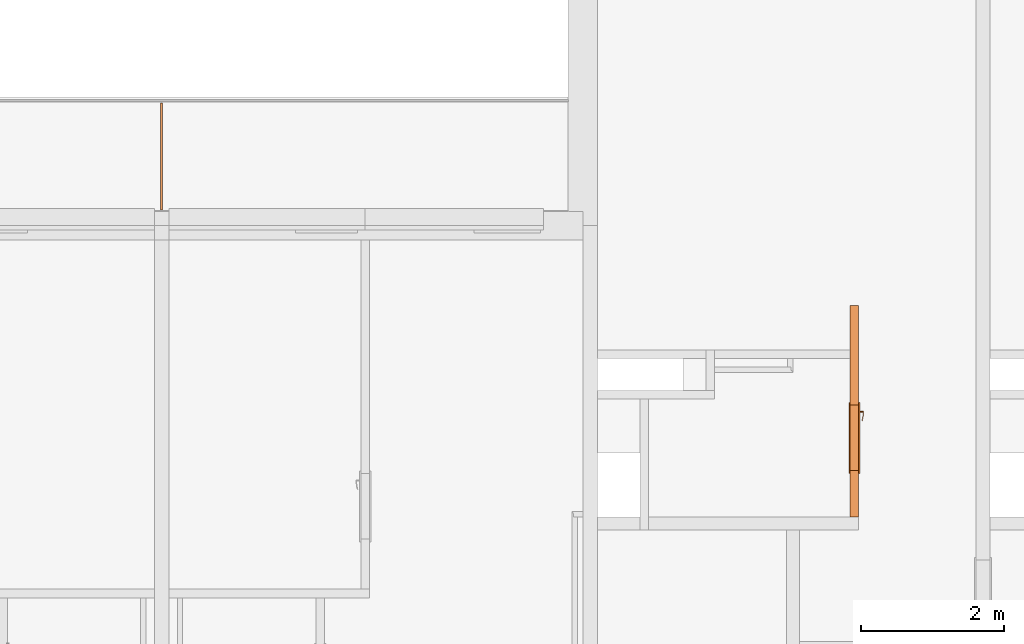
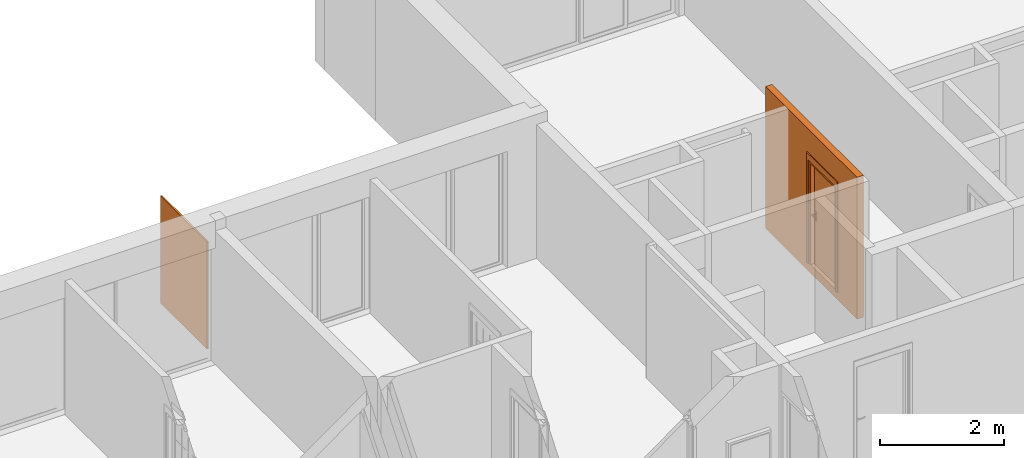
# One storey, part 27 of 66: 3 proxies, 1 opening.
"""IFC2X3 building model written with IfcOpenShell, lengths in millimetres."""

from ifc_helpers import new_model, entity, si_unit, converted_unit, derived_unit, money_unit, direction, frame, origin_with_axes, origin_2d_with_axis, place, context, subcontext, project, spatial, polyline, rectangle, outline, extrude, open_shell, faceted_brep, surface_model, source, transform, mapped, material, type_object, element, fill, save


model = new_model("IFC2X3")

# Units and contexts
model_context = context("Model", 3, precision=0.01, world=origin_with_axes(), true_north=direction((0.34421633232, 0.938890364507)))
body_context = subcontext(model_context, "Body", "Model", "MODEL_VIEW")
ifc_project = project(units=[si_unit("LENGTHUNIT", "METRE", prefix="MILLI"), si_unit("AREAUNIT", "SQUARE_METRE"), si_unit("VOLUMEUNIT", "CUBIC_METRE"), converted_unit("PLANEANGLEUNIT", "DEGREE", entity("IfcPlaneAngleMeasure", 0.0174532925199), si_unit("PLANEANGLEUNIT", "RADIAN"), dimensions=[0, 0, 0, 0, 0, 0, 0]), si_unit("SOLIDANGLEUNIT", "STERADIAN"), money_unit("USD"), converted_unit("TIMEUNIT", "Year", entity("IfcTimeMeasure", 31556926.0), si_unit("TIMEUNIT", "SECOND"), dimensions=[0, 0, 1, 0, 0, 0, 0]), si_unit("MASSUNIT", "GRAM", prefix="KILO"), si_unit("THERMODYNAMICTEMPERATUREUNIT", "DEGREE_CELSIUS"), si_unit("LUMINOUSINTENSITYUNIT", "LUMEN"), si_unit("ENERGYUNIT", "JOULE", prefix="MEGA"), derived_unit("THERMALCONDUCTANCEUNIT", [(si_unit("POWERUNIT", "WATT"), 1), (si_unit("LENGTHUNIT", "METRE"), -1), (si_unit("THERMODYNAMICTEMPERATUREUNIT", "KELVIN"), -1)]), derived_unit("SPECIFICHEATCAPACITYUNIT", [(si_unit("ENERGYUNIT", "JOULE"), 1), (si_unit("MASSUNIT", "GRAM", prefix="KILO"), -1), (si_unit("THERMODYNAMICTEMPERATUREUNIT", "KELVIN"), -1)]), derived_unit("MASSDENSITYUNIT", [(si_unit("MASSUNIT", "GRAM", prefix="KILO"), 1), (si_unit("VOLUMEUNIT", "CUBIC_METRE"), -1)])], contexts=[model_context])

# Site, building, storey
site_placement = place(None, origin_with_axes())
site = spatial("IfcSite", under=ifc_project, at=site_placement, Name="USTRONIE MORSKIE", CompositionType="ELEMENT")
building_placement = place(site_placement, origin_with_axes())
building = spatial("IfcBuilding", under=site, at=building_placement, Name="Budynek", CompositionType="ELEMENT")
storey_placement = place(building_placement, frame((0.0, 0.0, 10000.0), z_axis=(0.0, 0.0, 1.0), x_axis=(1.0, 0.0, 0.0)))
storey = spatial("IfcBuildingStorey", under=building, at=storey_placement, Name="PIĘTRO 3", CompositionType="ELEMENT", Elevation=10000.0)

# Proxies, opening
ifc_material_1 = material(Name="Bloczki silikatowe")
building_element_proxy_type_1 = type_object("IfcBuildingElementProxyType", Name="Bloczki silikatowe 120", PredefinedType="NOTDEFINED")
proxy_1_placement = place(storey_placement, frame((383017.920919, 743681.199036, -160.0), z_axis=(0.0, 0.0, 1.0), x_axis=(0.0, -1.0, 0.0)))
proxy_1 = element("IfcBuildingElementProxy", 1, at=proxy_1_placement, inside=storey, type_object=building_element_proxy_type_1, material=ifc_material_1, Name="SW-04", context=body_context, shape_type="Brep", body=[
    faceted_brep([(0.0, -60.0, 0.0), (0.0, -60.0, 2800.0), (0.0, 60.0, 2800.0), (0.0, 60.0, 0.0), (2960.0, -60.0, 0.0), (2960.0, -60.0, 2800.0), (2960.0, 60.0, 2800.0), (2960.0, 60.0, 0.0)], [[[0, 1, 2, 3]], [[4, 5, 1, 0]], [[5, 6, 2, 1]], [[3, 2, 6, 7]], [[3, 7, 4, 0]], [[7, 6, 5, 4]]]),
])
opening_placement = place(proxy_1_placement, frame((1850.00001479, 0.0, 160.0), z_axis=(0.0, 0.0, 1.0), x_axis=(1.0, 0.0, 0.0)))
opening = element("IfcOpeningElement", 2, at=opening_placement, cuts=proxy_1, Name="Dw.4", context=body_context, shape_type="SweptSolid", body=[
    extrude(rectangle(XDim=920.0, YDim=2070.0, at=origin_2d_with_axis()), frame((0.0, 120.0, 1035.0), z_axis=(0.0, -1.0, 0.0), x_axis=(1.0, 0.0, 0.0)), (0.0, 0.0, 1.0), 360.0),
    extrude(rectangle(XDim=994.0, YDim=2177.0, at=origin_2d_with_axis()), frame((0.0, 60.0, 1088.5), z_axis=(0.0, -1.0, 0.0), x_axis=(1.0, 0.0, 0.0)), (0.0, 0.0, -1.0), 120.0),
    extrude(rectangle(XDim=994.0, YDim=2177.0, at=origin_2d_with_axis()), frame((0.0, -60.0, 1088.5), z_axis=(0.0, 1.0, 0.0), x_axis=(1.0, 0.0, 0.0)), (0.0, 0.0, -1.0), 120.0),
])
building_element_proxy_type_2 = type_object("IfcBuildingElementProxyType", Name="Drzwi 23", PredefinedType="NOTDEFINED")
shared_shape = source(origin_with_axes(), body_context, "Body", "SurfaceModel", [
    faceted_brep([(-460.0, 0.0, 0.0), (-460.0, 5.0, 0.0), (-435.0, 5.0, 0.0), (-435.0, 0.0, 0.0), (-460.0, 0.0, 2070.0), (-460.0, 5.0, 2070.0), (-435.0, 5.0, 2045.0), (-435.0, 0.0, 2045.0)], [[[0, 1, 2, 3]], [[4, 5, 1, 0]], [[1, 5, 6, 2]], [[3, 2, 6, 7]], [[0, 3, 7, 4]], [[7, 6, 5, 4]]]),
    faceted_brep([(460.0, 0.0, 2070.0), (460.0, 5.0, 2070.0), (435.0, 5.0, 2045.0), (435.0, 0.0, 2045.0), (460.0, 0.0, 0.0), (460.0, 5.0, 0.0), (435.0, 5.0, 0.0), (435.0, 0.0, 0.0)], [[[0, 1, 2, 3]], [[4, 5, 1, 0]], [[1, 5, 6, 2]], [[3, 2, 6, 7]], [[0, 3, 7, 4]], [[7, 6, 5, 4]]]),
    faceted_brep([(-435.0, 0.0, 2045.0), (-435.0, 5.0, 2045.0), (435.0, 5.0, 2045.0), (435.0, 0.0, 2045.0), (-460.0, 0.0, 2070.0), (-460.0, 5.0, 2070.0), (460.0, 5.0, 2070.0), (460.0, 0.0, 2070.0)], [[[0, 1, 2, 3]], [[4, 5, 1, 0]], [[1, 5, 6, 2]], [[3, 2, 6, 7]], [[0, 3, 7, 4]], [[7, 6, 5, 4]]]),
    faceted_brep([(-497.0, 24.0, 0.0), (-447.0, 24.0, 0.0), (-447.0, 5.0, 0.0), (-497.0, 5.0, 0.0), (-497.0, 24.0, 2177.0), (-447.0, 24.0, 2057.0), (-447.0, 5.0, 2057.0), (-497.0, 5.0, 2177.0)], [[[0, 1, 2, 3]], [[0, 4, 5, 1]], [[1, 5, 6, 2]], [[3, 2, 6, 7]], [[4, 0, 3, 7]], [[5, 4, 7, 6]]]),
    faceted_brep([(497.0, 24.0, 2177.0), (447.0, 24.0, 2057.0), (447.0, 5.0, 2057.0), (497.0, 5.0, 2177.0), (497.0, 24.0, 0.0), (447.0, 24.0, 0.0), (447.0, 5.0, 0.0), (497.0, 5.0, 0.0)], [[[0, 1, 2, 3]], [[0, 4, 5, 1]], [[1, 5, 6, 2]], [[3, 2, 6, 7]], [[4, 0, 3, 7]], [[5, 4, 7, 6]]]),
    faceted_brep([(-497.0, 24.0, 2177.0), (-447.0, 24.0, 2057.0), (-447.0, 5.0, 2057.0), (-497.0, 5.0, 2177.0), (497.0, 24.0, 2177.0), (447.0, 24.0, 2057.0), (447.0, 5.0, 2057.0), (497.0, 5.0, 2177.0)], [[[0, 1, 2, 3]], [[0, 4, 5, 1]], [[1, 5, 6, 2]], [[3, 2, 6, 7]], [[4, 0, 3, 7]], [[5, 4, 7, 6]]]),
    faceted_brep([(-497.0, -134.0, 0.0), (-497.0, -115.0, 0.0), (-447.0, -115.0, 0.0), (-447.0, -134.0, 0.0), (-497.0, -134.0, 2177.0), (-497.0, -115.0, 2177.0), (-447.0, -115.0, 2057.0), (-447.0, -134.0, 2057.0)], [[[0, 1, 2, 3]], [[4, 5, 1, 0]], [[1, 5, 6, 2]], [[3, 2, 6, 7]], [[0, 3, 7, 4]], [[7, 6, 5, 4]]]),
    faceted_brep([(497.0, -134.0, 2177.0), (497.0, -115.0, 2177.0), (447.0, -115.0, 2057.0), (447.0, -134.0, 2057.0), (497.0, -134.0, 0.0), (497.0, -115.0, 0.0), (447.0, -115.0, 0.0), (447.0, -134.0, 0.0)], [[[0, 1, 2, 3]], [[4, 5, 1, 0]], [[1, 5, 6, 2]], [[3, 2, 6, 7]], [[0, 3, 7, 4]], [[7, 6, 5, 4]]]),
    faceted_brep([(-497.0, -134.0, 2177.0), (-497.0, -115.0, 2177.0), (-447.0, -115.0, 2057.0), (-447.0, -134.0, 2057.0), (497.0, -134.0, 2177.0), (497.0, -115.0, 2177.0), (447.0, -115.0, 2057.0), (447.0, -134.0, 2057.0)], [[[0, 1, 2, 3]], [[4, 5, 1, 0]], [[1, 5, 6, 2]], [[3, 2, 6, 7]], [[0, 3, 7, 4]], [[7, 6, 5, 4]]]),
    faceted_brep([(-400.0, -40.0, 0.0), (-400.0, -40.0, 2000.0), (-400.0, -115.0, 2000.0), (-400.0, -115.0, 0.0), (-412.0, -40.0, 2000.0), (-412.0, -40.0, 0.0), (-412.0, 0.0, 2000.0), (-460.0, 0.0, 2000.0), (-460.0, -115.0, 2000.0), (-460.0, -115.0, 0.0), (-460.0, 0.0, 0.0), (-412.0, 0.0, 0.0)], [[[0, 1, 2, 3]], [[4, 1, 0, 5]], [[4, 6, 7, 8, 2, 1]], [[3, 2, 8, 9]], [[5, 0, 3, 9, 10, 11]], [[6, 4, 5, 11]], [[6, 11, 10, 7]], [[10, 9, 8, 7]]]),
    faceted_brep([(412.0, -40.0, 2000.0), (400.0, -40.0, 2000.0), (400.0, -115.0, 2000.0), (460.0, -115.0, 2000.0), (460.0, 0.0, 2000.0), (412.0, 0.0, 2000.0), (412.0, -40.0, 0.0), (400.0, -40.0, 0.0), (400.0, -115.0, 0.0), (460.0, -115.0, 0.0), (460.0, 0.0, 0.0), (412.0, 0.0, 0.0)], [[[0, 1, 2, 3, 4, 5]], [[1, 0, 6, 7]], [[1, 7, 8, 2]], [[3, 2, 8, 9]], [[4, 3, 9, 10]], [[11, 5, 4, 10]], [[0, 5, 11, 6]], [[6, 11, 10, 9, 8, 7]]]),
    faceted_brep([(-412.0, 0.0, 2012.0), (-412.0, 0.0, 2000.0), (-460.0, 0.0, 2000.0), (-460.0, 0.0, 2070.0), (460.0, 0.0, 2070.0), (460.0, 0.0, 2000.0), (412.0, 0.0, 2000.0), (412.0, 0.0, 2012.0), (-412.0, -40.0, 2012.0), (-412.0, -40.0, 2000.0), (-400.0, -40.0, 2000.0), (-400.0, -115.0, 2000.0), (-460.0, -115.0, 2000.0), (-460.0, -115.0, 2070.0), (460.0, -115.0, 2070.0), (460.0, -115.0, 2000.0), (412.0, -40.0, 2000.0), (400.0, -115.0, 2000.0), (400.0, -40.0, 2000.0), (412.0, -40.0, 2012.0)], [[[0, 1, 2, 3, 4, 5, 6, 7]], [[1, 0, 8, 9]], [[9, 10, 11, 12, 2, 1]], [[2, 12, 13, 3]], [[3, 13, 14, 4]], [[4, 14, 15, 5]], [[16, 6, 5, 15, 17, 18]], [[7, 6, 16, 19]], [[0, 7, 19, 8]], [[16, 18, 10, 9, 8, 19]], [[10, 18, 17, 11]], [[17, 15, 14, 13, 12, 11]]]),
    faceted_brep([(-390.5, -40.0, 1060.0), (-390.5, -43.0, 1060.0), (-333.5, -43.0, 1060.0), (-333.5, -40.0, 1060.0), (-390.5, -40.0, 870.0), (-390.5, -43.0, 870.0), (-333.5, -43.0, 870.0), (-333.5, -40.0, 870.0)], [[[0, 1, 2, 3]], [[4, 5, 1, 0]], [[1, 5, 6, 2]], [[3, 2, 6, 7]], [[0, 3, 7, 4]], [[7, 6, 5, 4]]]),
    faceted_brep([(-362.0, -104.0, 990.0), (-362.0, -111.0, 990.0), (-367.0, -111.0, 991.339745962), (-367.0, -104.0, 991.339745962), (-337.0, -104.0, 990.0), (-337.0, -111.0, 990.0), (-337.0, -111.0, 1010.0), (-362.0, -111.0, 1010.0), (-367.0, -111.0, 1008.66025404), (-370.660254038, -111.0, 1005.0), (-372.0, -111.0, 1000.0), (-370.660254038, -111.0, 995.0), (-370.660254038, -104.0, 995.0), (-372.0, -104.0, 1000.0), (-370.660254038, -104.0, 1005.0), (-367.0, -104.0, 1008.66025404), (-362.0, -104.0, 1010.0), (-337.0, -104.0, 1010.0)], [[[0, 1, 2, 3]], [[4, 5, 1, 0]], [[1, 5, 6, 7, 8, 9, 10, 11, 2]], [[3, 2, 11, 12]], [[0, 3, 12, 13, 14, 15, 16, 17, 4]], [[17, 6, 5, 4]], [[16, 7, 6, 17]], [[15, 8, 7, 16]], [[14, 9, 8, 15]], [[13, 10, 9, 14]], [[12, 11, 10, 13]]]),
    surface_model("IfcShellBasedSurfaceModel", [(-337.0, -104.0, 1010.0), (-323.596090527, -111.0, 1009.60730092), (-323.901717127, -104.0, 1009.60730092), (-337.0, -111.0, 1010.0), (-296.890283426, -108.663544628, 1008.82190275), (-323.901717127, -104.0, 990.392699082), (-337.0, -104.0, 990.0), (-337.0, -111.0, 990.0), (-323.596090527, -111.0, 990.392699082), (-296.890283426, -108.663544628, 991.178097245), (-297.804837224, -101.716818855, 1008.82190275), (-297.804837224, -101.716818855, 991.178097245), (-270.489735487, -104.008415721, 991.963495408), (-270.489735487, -104.008415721, 1008.03650459), (-272.006256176, -97.1678329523, 1008.03650459), (-272.006256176, -97.1678329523, 991.963495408), (-244.59537082, -97.0700416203, 992.748893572), (-244.59537082, -97.0700416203, 1007.25110643), (-246.702316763, -90.3876628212, 1007.25110643), (-246.702316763, -90.3876628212, 992.748893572), (-236.538795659, -94.1376880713, 993.0), (-236.538795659, -94.1376880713, 1007.0), (-238.829442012, -87.5221707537, 1007.0), (-238.829442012, -87.5221707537, 993.0)], [open_shell([[[0, 1, 2]], [[0, 3, 1]], [[2, 1, 4]], [[0, 2, 5, 6]], [[3, 7, 8, 1]], [[1, 8, 9, 4]], [[2, 4, 10]], [[2, 10, 11, 5]], [[5, 7, 6]], [[5, 8, 7]], [[11, 9, 8]], [[4, 9, 12, 13]], [[10, 4, 13]], [[10, 14, 15, 11]], [[11, 8, 5]], [[15, 9, 11]], [[15, 12, 9]], [[13, 12, 16, 17]], [[10, 13, 14]], [[14, 18, 19, 15]], [[19, 12, 15]], [[19, 16, 12]], [[17, 16, 20, 21]], [[14, 13, 17]], [[14, 17, 18]], [[18, 22, 23, 19]], [[23, 16, 19]], [[23, 20, 16]], [[22, 21, 20, 23]], [[18, 17, 21]], [[18, 21, 22]]])]),
    faceted_brep([(-351.607695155, -53.0, 994.0), (-350.741669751, -43.0, 993.5), (-349.0, -43.0, 1000.0), (-350.0, -53.0, 1000.0), (-356.0, -53.0, 989.607695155), (-355.5, -43.0, 988.741669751), (-362.0, -43.0, 987.0), (-368.5, -43.0, 988.741669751), (-373.258330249, -43.0, 993.5), (-375.0, -43.0, 1000.0), (-373.258330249, -43.0, 1006.5), (-368.5, -43.0, 1011.25833025), (-362.0, -43.0, 1013.0), (-355.5, -43.0, 1011.25833025), (-350.741669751, -43.0, 1006.5), (-351.607695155, -53.0, 1006.0), (-356.0, -53.0, 1010.39230485), (-362.0, -53.0, 1012.0), (-368.0, -53.0, 1010.39230485), (-372.392304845, -53.0, 1006.0), (-374.0, -53.0, 1000.0), (-372.392304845, -53.0, 994.0), (-368.0, -53.0, 989.607695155), (-362.0, -53.0, 988.0)], [[[0, 1, 2, 3]], [[4, 5, 1, 0]], [[2, 1, 5, 6, 7, 8, 9, 10, 11, 12, 13, 14]], [[3, 2, 14, 15]], [[3, 15, 16, 17, 18, 19, 20, 21, 22, 23, 4, 0]], [[23, 6, 5, 4]], [[22, 7, 6, 23]], [[21, 8, 7, 22]], [[20, 9, 8, 21]], [[19, 10, 9, 20]], [[18, 11, 10, 19]], [[17, 12, 11, 18]], [[16, 13, 12, 17]], [[15, 14, 13, 16]]]),
    faceted_brep([(-344.679491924, -47.0, 895.0), (-342.947441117, -43.0, 894.0), (-340.0, -43.0, 905.0), (-342.0, -47.0, 905.0), (-352.0, -47.0, 887.679491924), (-351.0, -43.0, 885.947441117), (-362.0, -43.0, 883.0), (-373.0, -43.0, 885.947441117), (-381.052558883, -43.0, 894.0), (-384.0, -43.0, 905.0), (-381.052558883, -43.0, 916.0), (-373.0, -43.0, 924.052558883), (-362.0, -43.0, 927.0), (-351.0, -43.0, 924.052558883), (-342.947441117, -43.0, 916.0), (-344.679491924, -47.0, 915.0), (-352.0, -47.0, 922.320508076), (-362.0, -47.0, 925.0), (-372.0, -47.0, 922.320508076), (-379.320508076, -47.0, 915.0), (-382.0, -47.0, 905.0), (-379.320508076, -47.0, 895.0), (-372.0, -47.0, 887.679491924), (-362.0, -47.0, 885.0)], [[[0, 1, 2, 3]], [[4, 5, 1, 0]], [[2, 1, 5, 6, 7, 8, 9, 10, 11, 12, 13, 14]], [[3, 2, 14, 15]], [[3, 15, 16, 17, 18, 19, 20, 21, 22, 23, 4, 0]], [[23, 6, 5, 4]], [[22, 7, 6, 23]], [[21, 8, 7, 22]], [[20, 9, 8, 21]], [[19, 10, 9, 20]], [[18, 11, 10, 19]], [[17, 12, 11, 18]], [[16, 13, 12, 17]], [[15, 14, 13, 16]]]),
    faceted_brep([(-357.050252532, -49.0, 909.050252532), (-356.343145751, -47.0, 908.343145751), (-354.0, -47.0, 914.0), (-355.0, -49.0, 914.0), (-362.0, -49.0, 907.0), (-362.0, -47.0, 906.0), (-367.656854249, -47.0, 908.343145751), (-370.0, -47.0, 914.0), (-367.656854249, -47.0, 919.656854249), (-362.0, -47.0, 922.0), (-356.343145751, -47.0, 919.656854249), (-357.050252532, -49.0, 918.949747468), (-362.0, -49.0, 921.0), (-366.949747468, -49.0, 918.949747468), (-369.0, -49.0, 914.0), (-366.949747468, -49.0, 909.050252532)], [[[0, 1, 2, 3]], [[4, 5, 1, 0]], [[2, 1, 5, 6, 7, 8, 9, 10]], [[3, 2, 10, 11]], [[3, 11, 12, 13, 14, 15, 4, 0]], [[15, 6, 5, 4]], [[14, 7, 6, 15]], [[13, 8, 7, 14]], [[12, 9, 8, 13]], [[11, 10, 9, 12]]]),
    faceted_brep([(-362.0, -53.0, 1010.0), (-362.0, -104.0, 1010.0), (-357.0, -104.0, 1008.66025404), (-357.0, -53.0, 1008.66025404), (-367.0, -53.0, 1008.66025404), (-367.0, -104.0, 1008.66025404), (-370.660254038, -104.0, 1005.0), (-372.0, -104.0, 1000.0), (-370.660254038, -104.0, 995.0), (-367.0, -104.0, 991.339745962), (-362.0, -104.0, 990.0), (-357.0, -104.0, 991.339745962), (-353.339745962, -104.0, 995.0), (-352.0, -104.0, 1000.0), (-353.339745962, -104.0, 1005.0), (-353.339745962, -53.0, 1005.0), (-352.0, -53.0, 1000.0), (-353.339745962, -53.0, 995.0), (-357.0, -53.0, 991.339745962), (-362.0, -53.0, 990.0), (-367.0, -53.0, 991.339745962), (-370.660254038, -53.0, 995.0), (-372.0, -53.0, 1000.0), (-370.660254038, -53.0, 1005.0)], [[[0, 1, 2, 3]], [[4, 5, 1, 0]], [[1, 5, 6, 7, 8, 9, 10, 11, 12, 13, 14, 2]], [[3, 2, 14, 15]], [[0, 3, 15, 16, 17, 18, 19, 20, 21, 22, 23, 4]], [[23, 6, 5, 4]], [[22, 7, 6, 23]], [[21, 8, 7, 22]], [[20, 9, 8, 21]], [[19, 10, 9, 20]], [[18, 11, 10, 19]], [[17, 12, 11, 18]], [[16, 13, 12, 17]], [[15, 14, 13, 16]]]),
    faceted_brep([(-390.5, 0.0, 1060.0), (-333.5, 0.0, 1060.0), (-333.5, 3.0, 1060.0), (-390.5, 3.0, 1060.0), (-390.5, 0.0, 870.0), (-333.5, 0.0, 870.0), (-333.5, 3.0, 870.0), (-390.5, 3.0, 870.0)], [[[0, 1, 2, 3]], [[0, 4, 5, 1]], [[1, 5, 6, 2]], [[3, 2, 6, 7]], [[4, 0, 3, 7]], [[5, 4, 7, 6]]]),
    faceted_brep([(-362.0, 64.0, 990.0), (-367.0, 64.0, 991.339745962), (-367.0, 71.0, 991.339745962), (-362.0, 71.0, 990.0), (-337.0, 64.0, 990.0), (-337.0, 64.0, 1010.0), (-362.0, 64.0, 1010.0), (-367.0, 64.0, 1008.66025404), (-370.660254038, 64.0, 1005.0), (-372.0, 64.0, 1000.0), (-370.660254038, 64.0, 995.0), (-370.660254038, 71.0, 995.0), (-372.0, 71.0, 1000.0), (-370.660254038, 71.0, 1005.0), (-367.0, 71.0, 1008.66025404), (-362.0, 71.0, 1010.0), (-337.0, 71.0, 1010.0), (-337.0, 71.0, 990.0)], [[[0, 1, 2, 3]], [[0, 4, 5, 6, 7, 8, 9, 10, 1]], [[1, 10, 11, 2]], [[3, 2, 11, 12, 13, 14, 15, 16, 17]], [[4, 0, 3, 17]], [[5, 4, 17, 16]], [[6, 5, 16, 15]], [[7, 6, 15, 14]], [[8, 7, 14, 13]], [[9, 8, 13, 12]], [[10, 9, 12, 11]]]),
    surface_model("IfcShellBasedSurfaceModel", [(-337.0, 64.0, 1010.0), (-323.901717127, 64.0, 1009.60730092), (-323.596090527, 71.0, 1009.60730092), (-337.0, 64.0, 990.0), (-323.901717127, 64.0, 990.392699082), (-296.890283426, 68.6635446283, 1008.82190275), (-337.0, 71.0, 1010.0), (-337.0, 71.0, 990.0), (-297.804837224, 61.716818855, 991.178097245), (-297.804837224, 61.716818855, 1008.82190275), (-296.890283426, 68.6635446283, 991.178097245), (-323.596090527, 71.0, 990.392699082), (-272.006256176, 57.1678329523, 991.963495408), (-272.006256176, 57.1678329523, 1008.03650459), (-270.489735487, 64.0084157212, 1008.03650459), (-270.489735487, 64.0084157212, 991.963495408), (-246.702316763, 50.3876628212, 992.748893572), (-246.702316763, 50.3876628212, 1007.25110643), (-244.59537082, 57.0700416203, 1007.25110643), (-244.59537082, 57.0700416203, 992.748893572), (-238.829442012, 47.5221707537, 993.0), (-238.829442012, 47.5221707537, 1007.0), (-236.538795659, 54.1376880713, 1007.0), (-236.538795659, 54.1376880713, 993.0)], [open_shell([[[0, 1, 2]], [[0, 3, 4, 1]], [[1, 5, 2]], [[0, 2, 6]], [[4, 3, 7]], [[1, 4, 8, 9]], [[1, 9, 5]], [[2, 5, 10, 11]], [[6, 2, 11, 7]], [[4, 7, 11]], [[8, 4, 11]], [[9, 8, 12, 13]], [[9, 14, 5]], [[5, 14, 15, 10]], [[8, 11, 10]], [[12, 8, 10]], [[13, 12, 16, 17]], [[9, 13, 14]], [[14, 18, 19, 15]], [[12, 10, 15]], [[16, 12, 15]], [[17, 16, 20, 21]], [[13, 17, 18]], [[13, 18, 14]], [[18, 22, 23, 19]], [[16, 15, 19]], [[20, 16, 19]], [[21, 20, 23, 22]], [[17, 21, 22]], [[17, 22, 18]], [[20, 19, 23]]])]),
    faceted_brep([(-351.607695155, 13.0, 994.0), (-350.0, 13.0, 1000.0), (-349.0, 3.0, 1000.0), (-350.741669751, 3.0, 993.5), (-356.0, 13.0, 989.607695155), (-362.0, 13.0, 988.0), (-368.0, 13.0, 989.607695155), (-372.392304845, 13.0, 994.0), (-374.0, 13.0, 1000.0), (-372.392304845, 13.0, 1006.0), (-368.0, 13.0, 1010.39230485), (-362.0, 13.0, 1012.0), (-356.0, 13.0, 1010.39230485), (-351.607695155, 13.0, 1006.0), (-350.741669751, 3.0, 1006.5), (-355.5, 3.0, 1011.25833025), (-362.0, 3.0, 1013.0), (-368.5, 3.0, 1011.25833025), (-373.258330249, 3.0, 1006.5), (-375.0, 3.0, 1000.0), (-373.258330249, 3.0, 993.5), (-368.5, 3.0, 988.741669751), (-362.0, 3.0, 987.0), (-355.5, 3.0, 988.741669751)], [[[0, 1, 2, 3]], [[1, 0, 4, 5, 6, 7, 8, 9, 10, 11, 12, 13]], [[1, 13, 14, 2]], [[2, 14, 15, 16, 17, 18, 19, 20, 21, 22, 23, 3]], [[4, 0, 3, 23]], [[5, 4, 23, 22]], [[6, 5, 22, 21]], [[7, 6, 21, 20]], [[8, 7, 20, 19]], [[9, 8, 19, 18]], [[10, 9, 18, 17]], [[11, 10, 17, 16]], [[12, 11, 16, 15]], [[13, 12, 15, 14]]]),
    faceted_brep([(-344.679491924, 7.0, 895.0), (-342.0, 7.0, 905.0), (-340.0, 3.0, 905.0), (-342.947441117, 3.0, 894.0), (-352.0, 7.0, 887.679491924), (-362.0, 7.0, 885.0), (-372.0, 7.0, 887.679491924), (-379.320508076, 7.0, 895.0), (-382.0, 7.0, 905.0), (-379.320508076, 7.0, 915.0), (-372.0, 7.0, 922.320508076), (-362.0, 7.0, 925.0), (-352.0, 7.0, 922.320508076), (-344.679491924, 7.0, 915.0), (-342.947441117, 3.0, 916.0), (-351.0, 3.0, 924.052558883), (-362.0, 3.0, 927.0), (-373.0, 3.0, 924.052558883), (-381.052558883, 3.0, 916.0), (-384.0, 3.0, 905.0), (-381.052558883, 3.0, 894.0), (-373.0, 3.0, 885.947441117), (-362.0, 3.0, 883.0), (-351.0, 3.0, 885.947441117)], [[[0, 1, 2, 3]], [[1, 0, 4, 5, 6, 7, 8, 9, 10, 11, 12, 13]], [[1, 13, 14, 2]], [[2, 14, 15, 16, 17, 18, 19, 20, 21, 22, 23, 3]], [[4, 0, 3, 23]], [[5, 4, 23, 22]], [[6, 5, 22, 21]], [[7, 6, 21, 20]], [[8, 7, 20, 19]], [[9, 8, 19, 18]], [[10, 9, 18, 17]], [[11, 10, 17, 16]], [[12, 11, 16, 15]], [[13, 12, 15, 14]]]),
    faceted_brep([(-357.050252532, 9.0, 909.050252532), (-355.0, 9.0, 914.0), (-354.0, 7.0, 914.0), (-356.343145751, 7.0, 908.343145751), (-362.0, 9.0, 907.0), (-366.949747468, 9.0, 909.050252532), (-369.0, 9.0, 914.0), (-366.949747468, 9.0, 918.949747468), (-362.0, 9.0, 921.0), (-357.050252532, 9.0, 918.949747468), (-356.343145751, 7.0, 919.656854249), (-362.0, 7.0, 922.0), (-367.656854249, 7.0, 919.656854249), (-370.0, 7.0, 914.0), (-367.656854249, 7.0, 908.343145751), (-362.0, 7.0, 906.0)], [[[0, 1, 2, 3]], [[1, 0, 4, 5, 6, 7, 8, 9]], [[1, 9, 10, 2]], [[2, 10, 11, 12, 13, 14, 15, 3]], [[4, 0, 3, 15]], [[5, 4, 15, 14]], [[6, 5, 14, 13]], [[7, 6, 13, 12]], [[8, 7, 12, 11]], [[9, 8, 11, 10]]]),
    faceted_brep([(-362.0, 13.0, 1010.0), (-357.0, 13.0, 1008.66025404), (-357.0, 64.0, 1008.66025404), (-362.0, 64.0, 1010.0), (-367.0, 13.0, 1008.66025404), (-370.660254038, 13.0, 1005.0), (-372.0, 13.0, 1000.0), (-370.660254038, 13.0, 995.0), (-367.0, 13.0, 991.339745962), (-362.0, 13.0, 990.0), (-357.0, 13.0, 991.339745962), (-353.339745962, 13.0, 995.0), (-352.0, 13.0, 1000.0), (-353.339745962, 13.0, 1005.0), (-353.339745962, 64.0, 1005.0), (-352.0, 64.0, 1000.0), (-353.339745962, 64.0, 995.0), (-357.0, 64.0, 991.339745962), (-362.0, 64.0, 990.0), (-367.0, 64.0, 991.339745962), (-370.660254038, 64.0, 995.0), (-372.0, 64.0, 1000.0), (-370.660254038, 64.0, 1005.0), (-367.0, 64.0, 1008.66025404)], [[[0, 1, 2, 3]], [[0, 4, 5, 6, 7, 8, 9, 10, 11, 12, 13, 1]], [[1, 13, 14, 2]], [[3, 2, 14, 15, 16, 17, 18, 19, 20, 21, 22, 23]], [[4, 0, 3, 23]], [[5, 4, 23, 22]], [[6, 5, 22, 21]], [[7, 6, 21, 20]], [[8, 7, 20, 19]], [[9, 8, 19, 18]], [[10, 9, 18, 17]], [[11, 10, 17, 16]], [[12, 11, 16, 15]], [[13, 12, 15, 14]]]),
    faceted_brep([(412.0, 0.0, 0.0), (412.0, -40.0, 0.0), (-412.0, -40.0, 0.0), (-412.0, 0.0, 0.0), (412.0, 0.0, 2012.0), (412.0, -40.0, 2012.0), (-412.0, -40.0, 2012.0), (-412.0, 0.0, 2012.0)], [[[0, 1, 2, 3]], [[4, 5, 1, 0]], [[1, 5, 6, 2]], [[3, 2, 6, 7]], [[0, 3, 7, 4]], [[7, 6, 5, 4]]]),
])
proxy_2_placement = place(opening_placement, frame((-400.0, 0.0, 0.0), z_axis=(0.0, 0.0, 1.0), x_axis=(1.0, 0.0, 0.0)))
proxy_2 = element("IfcBuildingElementProxy", 3, at=proxy_2_placement, inside=storey, type_object=building_element_proxy_type_2, Name="Dw.4", context=body_context, shape_type="MappedRepresentation", body=[
    mapped(shared_shape, transform((400.0, 55.0, 0.0))),
])
fill(opening, proxy_2)

# Proxy
ifc_material_2 = material(Name="Woda")
building_element_proxy_type_3 = type_object("IfcBuildingElementProxyType", Name="Woda 30", PredefinedType="NOTDEFINED")
proxy_3_placement = place(storey_placement, frame((373317.920919, 745021.206184, 20.0), z_axis=(0.0, 0.0, 1.0), x_axis=(0.0, 1.0, 0.0)))
element("IfcBuildingElementProxy", 4, at=proxy_3_placement, inside=storey, type_object=building_element_proxy_type_3, material=ifc_material_2, Name="Œciana-007", context=body_context, shape_type="SweptSolid", body=[
    extrude(outline(polyline([(0.0, -15.0), (1500.0, -15.0), (1500.0, 15.0), (0.0, 15.0), (0.0, -15.0)])), origin_with_axes(), (0.0, 0.0, 1.0), 2120.0),
])

save(model, "model.ifc")
